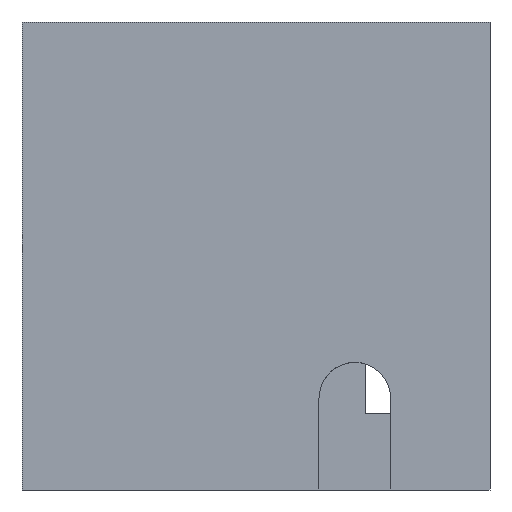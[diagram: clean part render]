
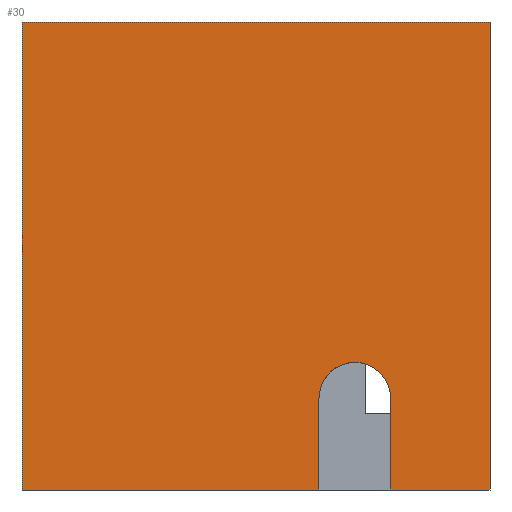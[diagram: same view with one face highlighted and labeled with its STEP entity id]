
A CAD part, left-side view. The second image highlights one B-rep face of the part: STEP entity #30.
In plain terms, the highlighted planar face has unit normal (-1, 0, 0).
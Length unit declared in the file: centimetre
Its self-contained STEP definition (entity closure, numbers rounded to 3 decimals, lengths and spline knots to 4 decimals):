
#20 = DIRECTION ( 'NONE',  ( 0., 0., 1. ) ) ;
#30 = ADVANCED_FACE ( 'NONE', ( #434 ), #417, .F. ) ;
#40 = CARTESIAN_POINT ( 'NONE',  ( 0., 365.4543, 196.0319 ) ) ;
#81 = LINE ( 'NONE', #40, #988 ) ;
#171 = CARTESIAN_POINT ( 'NONE',  ( 0., 288.8518, 196.0319 ) ) ;
#180 = CARTESIAN_POINT ( 'NONE',  ( 0., 0., 0. ) ) ;
#191 = ORIENTED_EDGE ( 'NONE', *, *, #1761, .F. ) ;
#192 = LINE ( 'NONE', #836, #296 ) ;
#257 = CARTESIAN_POINT ( 'NONE',  ( 0., 1000., 1000. ) ) ;
#279 = CARTESIAN_POINT ( 'NONE',  ( 0., 1000., 0. ) ) ;
#296 = VECTOR ( 'NONE', #1453, 100. ) ;
#340 = DIRECTION ( 'NONE',  ( 0., -1., 0. ) ) ;
#344 = EDGE_CURVE ( 'NONE', #1957, #1532, #1807, .T. ) ;
#388 = AXIS2_PLACEMENT_3D ( 'NONE', #171, #510, #1606 ) ;
#417 = PLANE ( 'NONE',  #792 ) ;
#433 = DIRECTION ( 'NONE',  ( 0., 0., -1. ) ) ;
#434 = FACE_OUTER_BOUND ( 'NONE', #1647, .T. ) ;
#444 = CARTESIAN_POINT ( 'NONE',  ( 0., 212.2493, 196.0319 ) ) ;
#492 = VERTEX_POINT ( 'NONE', #1724 ) ;
#510 = DIRECTION ( 'NONE',  ( -1., 0., 0. ) ) ;
#516 = LINE ( 'NONE', #964, #1834 ) ;
#554 = EDGE_CURVE ( 'NONE', #1789, #1957, #1447, .T. ) ;
#630 = VECTOR ( 'NONE', #1263, 100. ) ;
#718 = ORIENTED_EDGE ( 'NONE', *, *, #1633, .T. ) ;
#720 = CARTESIAN_POINT ( 'NONE',  ( 0., 212.2493, 0. ) ) ;
#751 = DIRECTION ( 'NONE',  ( 1., 0., 0. ) ) ;
#792 = AXIS2_PLACEMENT_3D ( 'NONE', #257, #751, #1174 ) ;
#836 = CARTESIAN_POINT ( 'NONE',  ( 0., 0., 1000. ) ) ;
#838 = LINE ( 'NONE', #1455, #961 ) ;
#868 = ORIENTED_EDGE ( 'NONE', *, *, #1403, .T. ) ;
#913 = EDGE_CURVE ( 'NONE', #1660, #1046, #192, .T. ) ;
#961 = VECTOR ( 'NONE', #340, 100. ) ;
#964 = CARTESIAN_POINT ( 'NONE',  ( 0., 1000., 0. ) ) ;
#988 = VECTOR ( 'NONE', #1683, 100. ) ;
#998 = EDGE_CURVE ( 'NONE', #1261, #1341, #81, .T. ) ;
#999 = DIRECTION ( 'NONE',  ( -1., 0., 0. ) ) ;
#1018 = VERTEX_POINT ( 'NONE', #279 ) ;
#1034 = ORIENTED_EDGE ( 'NONE', *, *, #2037, .T. ) ;
#1046 = VERTEX_POINT ( 'NONE', #180 ) ;
#1130 = ORIENTED_EDGE ( 'NONE', *, *, #1255, .F. ) ;
#1147 = CARTESIAN_POINT ( 'NONE',  ( 0., 212.2493, 0. ) ) ;
#1174 = DIRECTION ( 'NONE',  ( 0., 0., -1. ) ) ;
#1194 = CARTESIAN_POINT ( 'NONE',  ( 0., 288.8518, 196.0319 ) ) ;
#1255 = EDGE_CURVE ( 'NONE', #492, #1660, #1908, .T. ) ;
#1261 = VERTEX_POINT ( 'NONE', #2035 ) ;
#1263 = DIRECTION ( 'NONE',  ( 0., -1., 0. ) ) ;
#1341 = VERTEX_POINT ( 'NONE', #1571 ) ;
#1403 = EDGE_CURVE ( 'NONE', #492, #1018, #1507, .T. ) ;
#1420 = AXIS2_PLACEMENT_3D ( 'NONE', #1194, #999, #1986 ) ;
#1438 = CARTESIAN_POINT ( 'NONE',  ( 0., 0., 1000. ) ) ;
#1447 = LINE ( 'NONE', #1147, #1728 ) ;
#1453 = DIRECTION ( 'NONE',  ( 0., 0., -1. ) ) ;
#1455 = CARTESIAN_POINT ( 'NONE',  ( 0., 1000., 0. ) ) ;
#1481 = CARTESIAN_POINT ( 'NONE',  ( 0., 1000., 1000. ) ) ;
#1507 = LINE ( 'NONE', #1481, #1519 ) ;
#1519 = VECTOR ( 'NONE', #433, 100. ) ;
#1532 = VERTEX_POINT ( 'NONE', #1533 ) ;
#1533 = CARTESIAN_POINT ( 'NONE',  ( 0., 288.8518, 272.6344 ) ) ;
#1561 = ORIENTED_EDGE ( 'NONE', *, *, #913, .F. ) ;
#1571 = CARTESIAN_POINT ( 'NONE',  ( 0., 365.4543, 0. ) ) ;
#1577 = CARTESIAN_POINT ( 'NONE',  ( 0., 1000., 1000. ) ) ;
#1606 = DIRECTION ( 'NONE',  ( 0., 0., 1. ) ) ;
#1615 = ORIENTED_EDGE ( 'NONE', *, *, #554, .F. ) ;
#1633 = EDGE_CURVE ( 'NONE', #1789, #1046, #838, .T. ) ;
#1647 = EDGE_LOOP ( 'NONE', ( #1034, #1840, #191, #2001, #1615, #718, #1561, #1130, #868 ) ) ;
#1660 = VERTEX_POINT ( 'NONE', #1438 ) ;
#1683 = DIRECTION ( 'NONE',  ( 0., 0., -1. ) ) ;
#1724 = CARTESIAN_POINT ( 'NONE',  ( 0., 1000., 1000. ) ) ;
#1728 = VECTOR ( 'NONE', #20, 100. ) ;
#1761 = EDGE_CURVE ( 'NONE', #1532, #1261, #2048, .T. ) ;
#1789 = VERTEX_POINT ( 'NONE', #720 ) ;
#1807 = CIRCLE ( 'NONE', #388, 76.6025 ) ;
#1834 = VECTOR ( 'NONE', #1902, 100. ) ;
#1840 = ORIENTED_EDGE ( 'NONE', *, *, #998, .F. ) ;
#1902 = DIRECTION ( 'NONE',  ( 0., -1., 0. ) ) ;
#1908 = LINE ( 'NONE', #1577, #630 ) ;
#1957 = VERTEX_POINT ( 'NONE', #444 ) ;
#1986 = DIRECTION ( 'NONE',  ( 0., 0., 1. ) ) ;
#2001 = ORIENTED_EDGE ( 'NONE', *, *, #344, .F. ) ;
#2035 = CARTESIAN_POINT ( 'NONE',  ( 0., 365.4543, 196.0319 ) ) ;
#2037 = EDGE_CURVE ( 'NONE', #1018, #1341, #516, .T. ) ;
#2048 = CIRCLE ( 'NONE', #1420, 76.6025 ) ;
